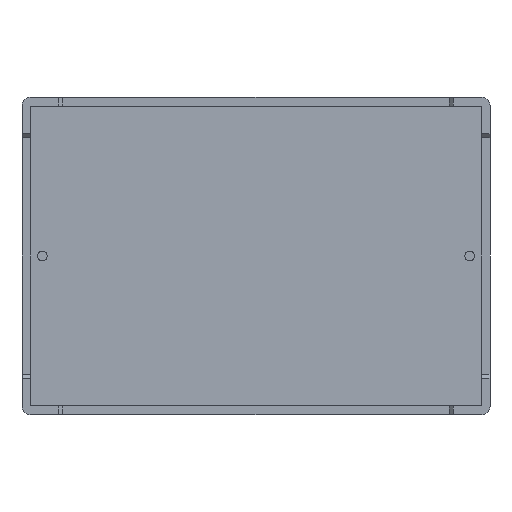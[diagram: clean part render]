
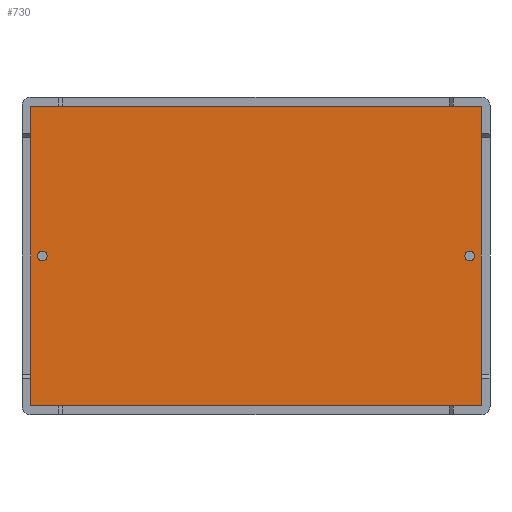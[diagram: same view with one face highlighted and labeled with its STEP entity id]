
A CAD part, front view. The second image highlights one B-rep face of the part: STEP entity #730.
In plain terms, the highlighted planar face has unit normal (0, -1, 0).
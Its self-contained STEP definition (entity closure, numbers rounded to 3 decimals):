
#11 = DIRECTION ( 'NONE',  ( 0., -1., 0. ) ) ;
#29 = CARTESIAN_POINT ( 'NONE',  ( 26.25, 1., -0.6 ) ) ;
#134 = EDGE_CURVE ( 'NONE', #3526, #3400, #1055, .T. ) ;
#170 = EDGE_CURVE ( 'NONE', #3660, #3392, #897, .T. ) ;
#199 = EDGE_CURVE ( 'NONE', #3803, #3544, #717, .T. ) ;
#228 = EDGE_CURVE ( 'NONE', #3904, #3095, #541, .T. ) ;
#239 = EDGE_CURVE ( 'NONE', #1041, #937, #415, .T. ) ;
#247 = EDGE_CURVE ( 'NONE', #937, #1041, #466, .T. ) ;
#256 = EDGE_CURVE ( 'NONE', #1112, #1000, #377, .T. ) ;
#268 = EDGE_CURVE ( 'NONE', #3095, #3803, #404, .T. ) ;
#279 = EDGE_CURVE ( 'NONE', #3544, #3660, #353, .T. ) ;
#287 = EDGE_CURVE ( 'NONE', #3392, #3526, #319, .T. ) ;
#292 = EDGE_CURVE ( 'NONE', #3400, #3904, #328, .T. ) ;
#319 = CIRCLE ( 'NONE', #3702, 0.1 ) ;
#328 = CIRCLE ( 'NONE', #3891, 0.1 ) ;
#353 = CIRCLE ( 'NONE', #3514, 0.1 ) ;
#377 = CIRCLE ( 'NONE', #3126, 0.6 ) ;
#404 = CIRCLE ( 'NONE', #3322, 0.1 ) ;
#415 = CIRCLE ( 'NONE', #2738, 0.6 ) ;
#466 = CIRCLE ( 'NONE', #2940, 0.6 ) ;
#486 = VECTOR ( 'NONE', #2622, 1000. ) ;
#541 = LINE ( 'NONE', #2660, #486 ) ;
#640 = VECTOR ( 'NONE', #2780, 1000. ) ;
#717 = LINE ( 'NONE', #2841, #640 ) ;
#730 = ADVANCED_FACE ( 'NONE', ( #3471, #3197, #3242 ), #1641, .T. ) ;
#837 = VECTOR ( 'NONE', #2946, 1000. ) ;
#897 = LINE ( 'NONE', #3022, #837 ) ;
#937 = VERTEX_POINT ( 'NONE', #1228 ) ;
#975 = VECTOR ( 'NONE', #3067, 1000. ) ;
#987 = CARTESIAN_POINT ( 'NONE',  ( -26.25, 1., 0.6 ) ) ;
#1000 = VERTEX_POINT ( 'NONE', #2636 ) ;
#1004 = EDGE_CURVE ( 'NONE', #1000, #1112, #2710, .T. ) ;
#1041 = VERTEX_POINT ( 'NONE', #29 ) ;
#1055 = LINE ( 'NONE', #3200, #975 ) ;
#1112 = VERTEX_POINT ( 'NONE', #987 ) ;
#1228 = CARTESIAN_POINT ( 'NONE',  ( 26.25, 1., 0.6 ) ) ;
#1627 = DIRECTION ( 'NONE',  ( 0., 0., -1. ) ) ;
#1641 = PLANE ( 'NONE',  #2947 ) ;
#1674 = CARTESIAN_POINT ( 'NONE',  ( 0., 1., 0. ) ) ;
#1678 = DIRECTION ( 'NONE',  ( 0., -1., 0. ) ) ;
#1982 = EDGE_LOOP ( 'NONE', ( #2329, #2337 ) ) ;
#2011 = EDGE_LOOP ( 'NONE', ( #2286, #2311 ) ) ;
#2043 = EDGE_LOOP ( 'NONE', ( #2397, #2414, #2447, #2471, #2485, #2509, #2528, #2537 ) ) ;
#2184 = DIRECTION ( 'NONE',  ( 0., 0., -1. ) ) ;
#2185 = DIRECTION ( 'NONE',  ( 0., -1., 0. ) ) ;
#2190 = CARTESIAN_POINT ( 'NONE',  ( -27.55, 1., 18.3 ) ) ;
#2206 = DIRECTION ( 'NONE',  ( 0., 0., -1. ) ) ;
#2215 = DIRECTION ( 'NONE',  ( 0., -1., 0. ) ) ;
#2233 = CARTESIAN_POINT ( 'NONE',  ( 27.55, 1., 18.3 ) ) ;
#2264 = DIRECTION ( 'NONE',  ( 0., 0., -1. ) ) ;
#2270 = DIRECTION ( 'NONE',  ( 0., -1., 0. ) ) ;
#2277 = CARTESIAN_POINT ( 'NONE',  ( 27.55, 1., -18.3 ) ) ;
#2286 = ORIENTED_EDGE ( 'NONE', *, *, #247, .F. ) ;
#2296 = DIRECTION ( 'NONE',  ( 0., 0., -1. ) ) ;
#2303 = DIRECTION ( 'NONE',  ( 0., -1., 0. ) ) ;
#2311 = ORIENTED_EDGE ( 'NONE', *, *, #239, .F. ) ;
#2319 = CARTESIAN_POINT ( 'NONE',  ( -27.55, 1., -18.3 ) ) ;
#2329 = ORIENTED_EDGE ( 'NONE', *, *, #256, .F. ) ;
#2331 = CARTESIAN_POINT ( 'NONE',  ( -26.25, 1., 0. ) ) ;
#2337 = ORIENTED_EDGE ( 'NONE', *, *, #1004, .F. ) ;
#2348 = CARTESIAN_POINT ( 'NONE',  ( -27.65, 1., -18.3 ) ) ;
#2397 = ORIENTED_EDGE ( 'NONE', *, *, #228, .T. ) ;
#2401 = DIRECTION ( 'NONE',  ( 0., 0., -1. ) ) ;
#2409 = DIRECTION ( 'NONE',  ( 0., -1., 0. ) ) ;
#2411 = CARTESIAN_POINT ( 'NONE',  ( -26.25, 1., 0. ) ) ;
#2414 = ORIENTED_EDGE ( 'NONE', *, *, #268, .T. ) ;
#2431 = DIRECTION ( 'NONE',  ( 0., 0., -1. ) ) ;
#2447 = ORIENTED_EDGE ( 'NONE', *, *, #199, .T. ) ;
#2449 = DIRECTION ( 'NONE',  ( 0., -1., 0. ) ) ;
#2452 = CARTESIAN_POINT ( 'NONE',  ( 26.25, 1., 0. ) ) ;
#2468 = DIRECTION ( 'NONE',  ( 0., 0., -1. ) ) ;
#2469 = DIRECTION ( 'NONE',  ( 0., -1., 0. ) ) ;
#2471 = ORIENTED_EDGE ( 'NONE', *, *, #279, .T. ) ;
#2476 = CARTESIAN_POINT ( 'NONE',  ( 26.25, 1., 0. ) ) ;
#2485 = ORIENTED_EDGE ( 'NONE', *, *, #170, .T. ) ;
#2509 = ORIENTED_EDGE ( 'NONE', *, *, #287, .T. ) ;
#2528 = ORIENTED_EDGE ( 'NONE', *, *, #134, .T. ) ;
#2537 = ORIENTED_EDGE ( 'NONE', *, *, #292, .T. ) ;
#2622 = DIRECTION ( 'NONE',  ( 0., 0., -1. ) ) ;
#2636 = CARTESIAN_POINT ( 'NONE',  ( -26.25, 1., -0.6 ) ) ;
#2654 = DIRECTION ( 'NONE',  ( 0., 0., -1. ) ) ;
#2660 = CARTESIAN_POINT ( 'NONE',  ( -27.65, 1., 18.4 ) ) ;
#2710 = CIRCLE ( 'NONE', #4049, 0.6 ) ;
#2738 = AXIS2_PLACEMENT_3D ( 'NONE', #2476, #2469, #2468 ) ;
#2780 = DIRECTION ( 'NONE',  ( 1., 0., 0. ) ) ;
#2841 = CARTESIAN_POINT ( 'NONE',  ( -27.65, 1., -18.4 ) ) ;
#2940 = AXIS2_PLACEMENT_3D ( 'NONE', #2452, #2449, #2431 ) ;
#2946 = DIRECTION ( 'NONE',  ( 0., 0., 1. ) ) ;
#2947 = AXIS2_PLACEMENT_3D ( 'NONE', #1674, #1678, #1627 ) ;
#3014 = CARTESIAN_POINT ( 'NONE',  ( 27.65, 1., 18.3 ) ) ;
#3022 = CARTESIAN_POINT ( 'NONE',  ( 27.65, 1., -18.4 ) ) ;
#3067 = DIRECTION ( 'NONE',  ( -1., 0., 0. ) ) ;
#3095 = VERTEX_POINT ( 'NONE', #2348 ) ;
#3126 = AXIS2_PLACEMENT_3D ( 'NONE', #2411, #2409, #2401 ) ;
#3197 = FACE_BOUND ( 'NONE', #1982, .T. ) ;
#3200 = CARTESIAN_POINT ( 'NONE',  ( 27.65, 1., 18.4 ) ) ;
#3242 = FACE_OUTER_BOUND ( 'NONE', #2043, .T. ) ;
#3303 = CARTESIAN_POINT ( 'NONE',  ( -27.55, 1., 18.4 ) ) ;
#3322 = AXIS2_PLACEMENT_3D ( 'NONE', #2319, #2303, #2296 ) ;
#3338 = CARTESIAN_POINT ( 'NONE',  ( 27.55, 1., 18.4 ) ) ;
#3392 = VERTEX_POINT ( 'NONE', #3014 ) ;
#3400 = VERTEX_POINT ( 'NONE', #3303 ) ;
#3471 = FACE_BOUND ( 'NONE', #2011, .T. ) ;
#3514 = AXIS2_PLACEMENT_3D ( 'NONE', #2277, #2270, #2264 ) ;
#3526 = VERTEX_POINT ( 'NONE', #3338 ) ;
#3544 = VERTEX_POINT ( 'NONE', #3910 ) ;
#3660 = VERTEX_POINT ( 'NONE', #3920 ) ;
#3687 = CARTESIAN_POINT ( 'NONE',  ( -27.65, 1., 18.3 ) ) ;
#3702 = AXIS2_PLACEMENT_3D ( 'NONE', #2233, #2215, #2206 ) ;
#3803 = VERTEX_POINT ( 'NONE', #4216 ) ;
#3891 = AXIS2_PLACEMENT_3D ( 'NONE', #2190, #2185, #2184 ) ;
#3904 = VERTEX_POINT ( 'NONE', #3687 ) ;
#3910 = CARTESIAN_POINT ( 'NONE',  ( 27.55, 1., -18.4 ) ) ;
#3920 = CARTESIAN_POINT ( 'NONE',  ( 27.65, 1., -18.3 ) ) ;
#4049 = AXIS2_PLACEMENT_3D ( 'NONE', #2331, #11, #2654 ) ;
#4216 = CARTESIAN_POINT ( 'NONE',  ( -27.55, 1., -18.4 ) ) ;
